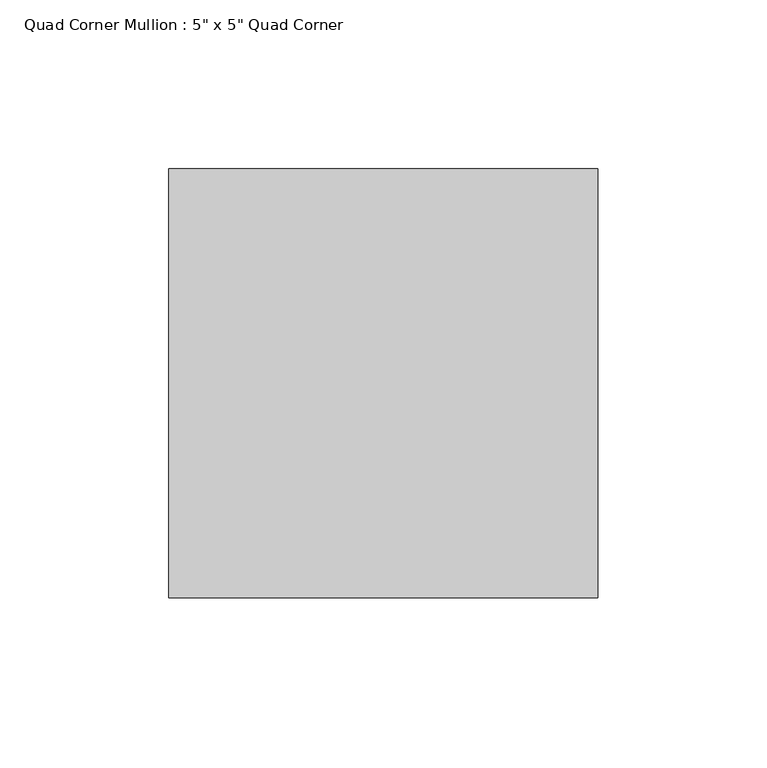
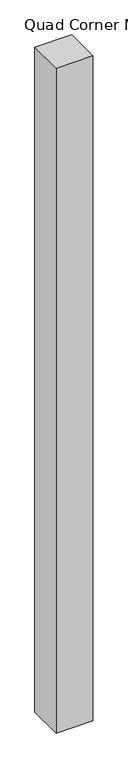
"""IFC4 building model written with IfcOpenShell, lengths in millimetres: member geometry."""

import ifcopenshell
import ifcopenshell.guid

model = None  # the IFC model being written
_history = None  # IfcOwnerHistory: only IFC2X3 demands one
_inside = {}  # id of a spatial element -> (the spatial element, [elements in it])
_under = {}  # id of a project, library or spatial element -> (it, [spatial elements below it])
_declared = {}  # id of a project -> (the project, [libraries it declares])
_typed = {}  # id of a type object -> (the type object, [elements of that type])
_made_of = {}  # id of a material, layer set ... -> (it, [elements and type objects made of it])


def new_model(schema):
    """Start an empty IFC model of exactly this schema.

    Asked for "IFC4X3", IfcOpenShell would pick the latest addendum, in which some entities
    have other attributes; the version numbers below select the first issue.
    IFC2X3 requires an IfcOwnerHistory on every rooted entity: one is made here for all.
    """
    global model, _history
    if schema == "IFC4X3":
        model = ifcopenshell.file(schema_version=(4, 3, 0, 0))
    else:
        model = ifcopenshell.file(schema=schema)
    _inside.clear()
    _under.clear()
    _declared.clear()
    _typed.clear()
    _made_of.clear()
    _history = None
    if model.schema == "IFC2X3":
        org = make("IfcOrganization", Name="unknown")
        user = make(
            "IfcPersonAndOrganization",
            ThePerson=make("IfcPerson", FamilyName="unknown"),
            TheOrganization=org,
        )
        app = make(
            "IfcApplication",
            ApplicationDeveloper=org,
            Version="unknown",
            ApplicationFullName="unknown",
            ApplicationIdentifier="unknown",
        )
        _history = make(
            "IfcOwnerHistory",
            OwningUser=user,
            OwningApplication=app,
            ChangeAction="ADDED",
            CreationDate=0,
        )
    return model


def make(cls, **values):
    """One entity of the class cls with the attributes given. An attribute that is None is left unset."""
    return model.create_entity(
        cls, **{name: value for name, value in values.items() if value is not None}
    )


def rooted(cls, **values):
    """An entity with a GlobalId (a new one), such as an element, a storey or a relation."""
    return make(cls, GlobalId=ifcopenshell.guid.new(), OwnerHistory=_history, **values)


def si_unit(unit_type, name, prefix=None):
    """IfcSIUnit, for example si_unit("LENGTHUNIT", "METRE", prefix="MILLI")."""
    return make("IfcSIUnit", UnitType=unit_type, Prefix=prefix, Name=name)


def assignment(units):
    """IfcUnitAssignment: the units of a project."""
    return None if units is None else make("IfcUnitAssignment", Units=units)


def point(xyz):
    """IfcCartesianPoint."""
    return None if xyz is None else make("IfcCartesianPoint", Coordinates=xyz)


def direction(xyz):
    """IfcDirection."""
    return None if xyz is None else make("IfcDirection", DirectionRatios=xyz)


def frame(location, z_axis=None, x_axis=None):
    """IfcAxis2Placement3D, a coordinate frame: its origin and axes. An axis left out is left unset."""
    return make(
        "IfcAxis2Placement3D",
        Location=point(location),
        Axis=direction(z_axis),
        RefDirection=direction(x_axis),
    )


def origin():
    """The frame at (0, 0, 0) with its axes left unset."""
    return frame((0.0, 0.0, 0.0))


def place(relative_to, where):
    """IfcLocalPlacement: puts the frame where relative to a parent placement (None: the world)."""
    return make(
        "IfcLocalPlacement", PlacementRelTo=relative_to, RelativePlacement=where
    )


def context(
    kind, dimensions, precision=None, world=None, true_north=None, identifier=None
):
    """IfcGeometricRepresentationContext, for example the 3D "Model" context."""
    return make(
        "IfcGeometricRepresentationContext",
        ContextIdentifier=identifier,
        ContextType=kind,
        CoordinateSpaceDimension=dimensions,
        Precision=precision,
        WorldCoordinateSystem=world,
        TrueNorth=true_north,
    )


def project(units=None, contexts=None):
    """IfcProject with its units and contexts."""
    return rooted(
        "IfcProject",
        Name="project",
        RepresentationContexts=contexts,
        UnitsInContext=assignment(units),
    )


def spatial(cls, under=None, at=None, **own):
    """A site, building, storey or space (cls), placed at a placement, below another one or the project."""
    s = rooted(cls, ObjectPlacement=at, **own)
    if under is not None:
        _under.setdefault(under.id(), (under, []))[1].append(s)
    return s


def polyline(points):
    """IfcPolyline through the points."""
    return make("IfcPolyline", Points=[point(p) for p in points])


def outline(outer, holes=None, kind="AREA"):
    """IfcArbitraryClosedProfileDef: a profile drawn as a closed curve; with holes, ...WithVoids."""
    if holes is None:
        return make("IfcArbitraryClosedProfileDef", ProfileType=kind, OuterCurve=outer)
    return make(
        "IfcArbitraryProfileDefWithVoids",
        ProfileType=kind,
        OuterCurve=outer,
        InnerCurves=holes,
    )


def extrude(swept, where, along, depth):
    """IfcExtrudedAreaSolid: the profile swept, set in the frame where, extruded along a direction by depth."""
    return make(
        "IfcExtrudedAreaSolid",
        SweptArea=swept,
        Position=where,
        ExtrudedDirection=direction(along),
        Depth=depth,
    )


def shape(context_of_items, identifier, shape_type, items):
    """IfcShapeRepresentation: the items that make up one representation, for example the "Body"."""
    return make(
        "IfcShapeRepresentation",
        ContextOfItems=context_of_items,
        RepresentationIdentifier=identifier,
        RepresentationType=shape_type,
        Items=items,
    )


def source(mapping_origin, context_of_items, identifier, shape_type, items):
    """IfcRepresentationMap: a shape defined once, which mapped items show again and again."""
    return make(
        "IfcRepresentationMap",
        MappingOrigin=mapping_origin,
        MappedRepresentation=shape(context_of_items, identifier, shape_type, items),
    )


def transform(
    local_origin,
    x_axis=None,
    y_axis=None,
    z_axis=None,
    scale=None,
    scale2=None,
    scale3=None,
    uniform=True,
):
    """IfcCartesianTransformationOperator3D, or its non-uniform kind. x_axis, y_axis, z_axis: its Axis1, 2, 3."""
    if uniform:
        return make(
            "IfcCartesianTransformationOperator3D",
            Axis1=direction(x_axis),
            Axis2=direction(y_axis),
            LocalOrigin=point(local_origin),
            Scale=scale,
            Axis3=direction(z_axis),
        )
    return make(
        "IfcCartesianTransformationOperator3DnonUniform",
        Axis1=direction(x_axis),
        Axis2=direction(y_axis),
        LocalOrigin=point(local_origin),
        Scale=scale,
        Axis3=direction(z_axis),
        Scale2=scale2,
        Scale3=scale3,
    )


def mapped(mapping_source, mapping_target):
    """IfcMappedItem: shows the shape of a source again, moved by a transform."""
    return make(
        "IfcMappedItem", MappingSource=mapping_source, MappingTarget=mapping_target
    )


def made_of(thing, what):
    """Note that an element or type object is made of a material, layer set ...; save() writes the relation."""
    if what is not None:
        _made_of.setdefault(what.id(), (what, []))[1].append(thing)
    return thing


def element(
    cls,
    number,
    at=None,
    inside=None,
    cuts=None,
    type_object=None,
    material=None,
    context=None,
    identifier="Body",
    shape_type=None,
    held_by="IfcProductDefinitionShape",
    body=None,
    shapes=None,
    **own,
):
    """One element of the class cls, such as IfcWall. Its Tag is "e" and its number.

    at: its placement. inside: the storey or other place that contains it. cuts: it is an
    opening in that element (IfcRelVoidsElement). A single representation is given by context,
    identifier, shape_type and body (its items); several are given by shapes. held_by: the class
    of the entity that holds the representations. save() writes the other relations.
    """
    e = rooted(cls, Tag="e%d" % number, ObjectPlacement=at, **own)
    if body is not None:
        shapes = [shape(context, identifier, shape_type, body)]
    if shapes is not None:
        e.Representation = make(held_by, Representations=shapes)
    if inside is not None:
        _inside.setdefault(inside.id(), (inside, []))[1].append(e)
    if cuts is not None:
        rooted(
            "IfcRelVoidsElement", RelatingBuildingElement=cuts, RelatedOpeningElement=e
        )
    if type_object is not None:
        _typed.setdefault(type_object.id(), (type_object, []))[1].append(e)
    return made_of(e, material)


def aggregate(whole, parts):
    """IfcRelAggregates: a whole, such as a stair, and the parts it consists of."""
    return rooted("IfcRelAggregates", RelatingObject=whole, RelatedObjects=parts)


def save(model, path):
    """Write the relations noted so far, then the file.

    IfcRelAggregates (storeys below a building ...), IfcRelContainedInSpatialStructure (elements
    in a storey), IfcRelDefinesByType, IfcRelAssociatesMaterial and IfcRelDeclares: one each for
    every whole, place, type object, material and project.
    """
    for whole, parts in _under.values():
        aggregate(whole, parts)
    for where, things in _inside.values():
        rooted(
            "IfcRelContainedInSpatialStructure",
            RelatedElements=things,
            RelatingStructure=where,
        )
    for kind, things in _typed.values():
        rooted("IfcRelDefinesByType", RelatedObjects=things, RelatingType=kind)
    for what, things in _made_of.values():
        rooted("IfcRelAssociatesMaterial", RelatedObjects=things, RelatingMaterial=what)
    for by, libraries in _declared.values():
        rooted("IfcRelDeclares", RelatingContext=by, RelatedDefinitions=libraries)
    model.write(path)


def member_e5f3152e(model_context):
    return source(origin(), model_context, "Body", "SweptSolid", [
        extrude(outline(polyline([(63.5, 63.5), (63.5, -63.5), (-63.5, -63.5), (-63.5, 63.5), (63.5, 63.5)])), frame((0.0, 0.0, -2438.4), z_axis=(0.0, 0.0, 1.0), x_axis=(1.0, 0.0, 0.0)), (0.0, 0.0, 1.0), 2438.4),
    ])


if __name__ == "__main__":
    model = new_model("IFC4")
    model_context = context("Model", 3, world=origin())
    ifc_project = project(units=[si_unit("LENGTHUNIT", "METRE", prefix="MILLI")], contexts=[model_context])
    site = spatial("IfcSite", under=ifc_project)
    building = spatial("IfcBuilding", under=site)
    placement = place(None, origin())
    member_shape = member_e5f3152e(model_context)
    element("IfcMember", 1, ObjectType="Quad Corner Mullion : 5\" x 5\" Quad Corner", at=placement, inside=building, context=model_context, shape_type="MappedRepresentation", body=[
        mapped(member_shape, transform((0.0, 0.0, 0.0), x_axis=(1.0, 0.0, 0.0), y_axis=(0.0, 1.0, 0.0), z_axis=(0.0, 0.0, 1.0))),
    ])
    save(model, "model.ifc")
